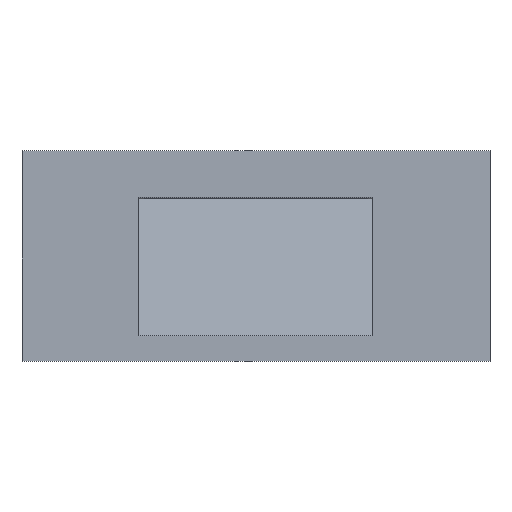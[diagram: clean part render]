
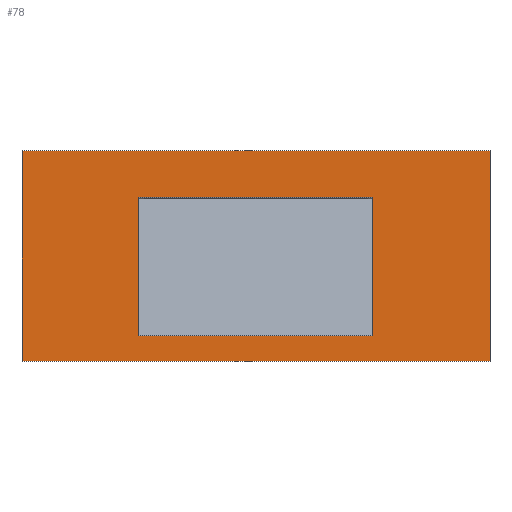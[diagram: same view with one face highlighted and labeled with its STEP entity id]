
A CAD part, top view. The second image highlights one B-rep face of the part: STEP entity #78.
In plain terms, the highlighted planar face has unit normal (0, 0, 1).
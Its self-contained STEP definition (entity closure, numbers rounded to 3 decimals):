
#43=FACE_BOUND('',#211,.T.);
#44=FACE_BOUND('',#212,.T.);
#78=ADVANCED_FACE('',(#43,#44),#125,.F.);
#125=PLANE('',#923);
#211=EDGE_LOOP('',(#353,#354,#355,#356));
#212=EDGE_LOOP('',(#357,#358,#359,#360));
#353=ORIENTED_EDGE('',*,*,#612,.F.);
#354=ORIENTED_EDGE('',*,*,#653,.F.);
#355=ORIENTED_EDGE('',*,*,#651,.T.);
#356=ORIENTED_EDGE('',*,*,#654,.T.);
#357=ORIENTED_EDGE('',*,*,#581,.T.);
#358=ORIENTED_EDGE('',*,*,#611,.T.);
#359=ORIENTED_EDGE('',*,*,#655,.F.);
#360=ORIENTED_EDGE('',*,*,#656,.F.);
#498=VERTEX_POINT('',#1187);
#502=VERTEX_POINT('',#1194);
#528=VERTEX_POINT('',#1259);
#529=VERTEX_POINT('',#1263);
#530=VERTEX_POINT('',#1264);
#556=VERTEX_POINT('',#1369);
#557=VERTEX_POINT('',#1371);
#558=VERTEX_POINT('',#1377);
#581=EDGE_CURVE('',#498,#502,#699,.T.);
#611=EDGE_CURVE('',#502,#528,#728,.T.);
#612=EDGE_CURVE('',#529,#530,#729,.T.);
#651=EDGE_CURVE('',#557,#556,#763,.T.);
#653=EDGE_CURVE('',#557,#529,#765,.T.);
#654=EDGE_CURVE('',#556,#530,#766,.T.);
#655=EDGE_CURVE('',#558,#528,#767,.T.);
#656=EDGE_CURVE('',#498,#558,#768,.T.);
#699=LINE('',#1195,#805);
#728=LINE('',#1260,#834);
#729=LINE('',#1262,#835);
#763=LINE('',#1370,#869);
#765=LINE('',#1374,#871);
#766=LINE('',#1375,#872);
#767=LINE('',#1376,#873);
#768=LINE('',#1378,#874);
#805=VECTOR('',#969,1.);
#834=VECTOR('',#1010,1.);
#835=VECTOR('',#1013,1.);
#869=VECTOR('',#1067,1.);
#871=VECTOR('',#1071,1.);
#872=VECTOR('',#1072,1.);
#873=VECTOR('',#1073,1.);
#874=VECTOR('',#1074,1.);
#923=AXIS2_PLACEMENT_3D('',#1379,#1075,#1076);
#969=DIRECTION('',(0.,-1.,0.));
#1010=DIRECTION('',(-1.,0.,0.));
#1013=DIRECTION('',(-1.,0.,0.));
#1067=DIRECTION('',(-1.,0.,0.));
#1071=DIRECTION('',(0.,-1.,0.));
#1072=DIRECTION('',(0.,-1.,0.));
#1073=DIRECTION('',(0.,-1.,0.));
#1074=DIRECTION('',(-1.,0.,0.));
#1075=DIRECTION('',(0.,0.,-1.));
#1076=DIRECTION('',(-1.,0.,0.));
#1187=CARTESIAN_POINT('',(250.,28.,0.));
#1194=CARTESIAN_POINT('',(250.,-267.,0.));
#1195=CARTESIAN_POINT('',(250.,128.,0.));
#1259=CARTESIAN_POINT('',(-250.,-267.,0.));
#1260=CARTESIAN_POINT('',(250.,-267.,0.));
#1262=CARTESIAN_POINT('',(250.,-322.,0.));
#1263=CARTESIAN_POINT('',(500.,-322.,0.));
#1264=CARTESIAN_POINT('',(-500.,-322.,0.));
#1369=CARTESIAN_POINT('',(-500.,128.,0.));
#1370=CARTESIAN_POINT('',(250.,128.,0.));
#1371=CARTESIAN_POINT('',(500.,128.,0.));
#1374=CARTESIAN_POINT('',(500.,128.,0.));
#1375=CARTESIAN_POINT('',(-500.,128.,0.));
#1376=CARTESIAN_POINT('',(-250.,128.,0.));
#1377=CARTESIAN_POINT('',(-250.,28.,0.));
#1378=CARTESIAN_POINT('',(250.,28.,0.));
#1379=CARTESIAN_POINT('',(250.,128.,0.));
